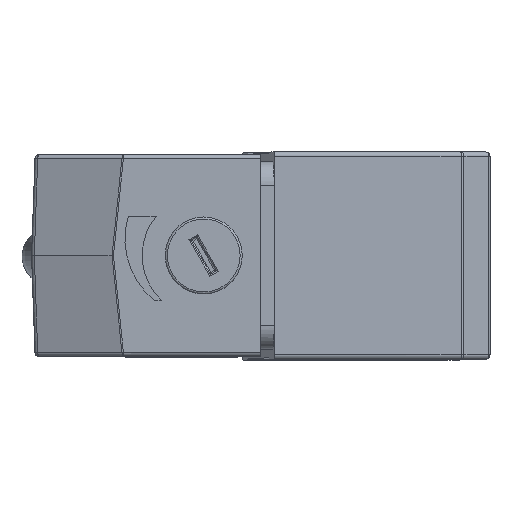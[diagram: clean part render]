
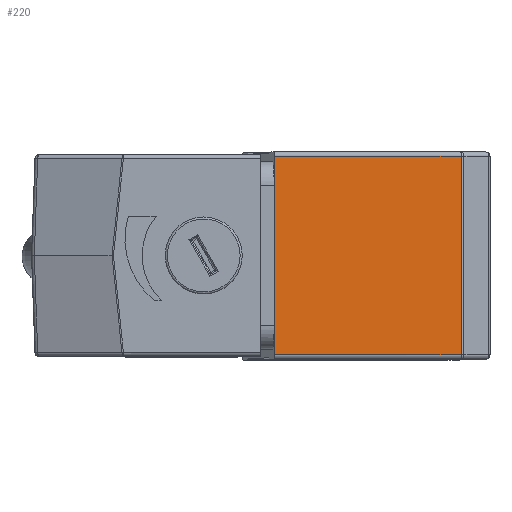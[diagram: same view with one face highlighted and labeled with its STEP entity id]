
A CAD part, top view. The second image highlights one B-rep face of the part: STEP entity #220.
In plain terms, the highlighted planar face has unit normal (0.026, 0, 1).
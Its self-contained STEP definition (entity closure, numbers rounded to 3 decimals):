
#220 = ADVANCED_FACE( '', ( #536 ), #537, .F. );
#536 = FACE_OUTER_BOUND( '', #977, .T. );
#537 = PLANE( '', #978 );
#977 = EDGE_LOOP( '', ( #2090, #2091, #2092, #2093 ) );
#978 = AXIS2_PLACEMENT_3D( '', #2094, #2095, #2096 );
#2090 = ORIENTED_EDGE( '', *, *, #2431, .T. );
#2091 = ORIENTED_EDGE( '', *, *, #2457, .T. );
#2092 = ORIENTED_EDGE( '', *, *, #2464, .T. );
#2093 = ORIENTED_EDGE( '', *, *, #2474, .T. );
#2094 = CARTESIAN_POINT( '', ( -9.447, 48.799, 39.25 ) );
#2095 = DIRECTION( '', ( -0.026, 0., -1. ) );
#2096 = DIRECTION( '', ( 1., 0., -0.026 ) );
#2431 = EDGE_CURVE( '', #2976, #2974, #2977, .T. );
#2457 = EDGE_CURVE( '', #2974, #3012, #3014, .F. );
#2464 = EDGE_CURVE( '', #3012, #3023, #3025, .F. );
#2474 = EDGE_CURVE( '', #3023, #2976, #3036, .F. );
#2974 = VERTEX_POINT( '', #3733 );
#2976 = VERTEX_POINT( '', #3735 );
#2977 = LINE( '', #3736, #3737 );
#3012 = VERTEX_POINT( '', #3788 );
#3014 = LINE( '', #3790, #3791 );
#3023 = VERTEX_POINT( '', #3801 );
#3025 = LINE( '', #3803, #3804 );
#3036 = LINE( '', #3818, #3819 );
#3733 = CARTESIAN_POINT( '', ( -9.447, -7.1, 39.25 ) );
#3735 = CARTESIAN_POINT( '', ( -9.447, 7.1, 39.25 ) );
#3736 = CARTESIAN_POINT( '', ( -9.447, 49.361, 39.25 ) );
#3737 = VECTOR( '', #4338, 1000. );
#3788 = CARTESIAN_POINT( '', ( 3.884, -7.1, 38.901 ) );
#3790 = CARTESIAN_POINT( '', ( 4.004, -7.1, 38.898 ) );
#3791 = VECTOR( '', #4382, 1000. );
#3801 = CARTESIAN_POINT( '', ( 3.884, 7.1, 38.901 ) );
#3803 = CARTESIAN_POINT( '', ( 3.884, 48.799, 38.901 ) );
#3804 = VECTOR( '', #4399, 1000. );
#3818 = CARTESIAN_POINT( '', ( -9.447, 7.1, 39.25 ) );
#3819 = VECTOR( '', #4421, 1000. );
#4338 = DIRECTION( '', ( 0., -1., 0. ) );
#4382 = DIRECTION( '', ( -1., 0., 0.026 ) );
#4399 = DIRECTION( '', ( 0., -1., 0. ) );
#4421 = DIRECTION( '', ( 1., 0., -0.026 ) );
